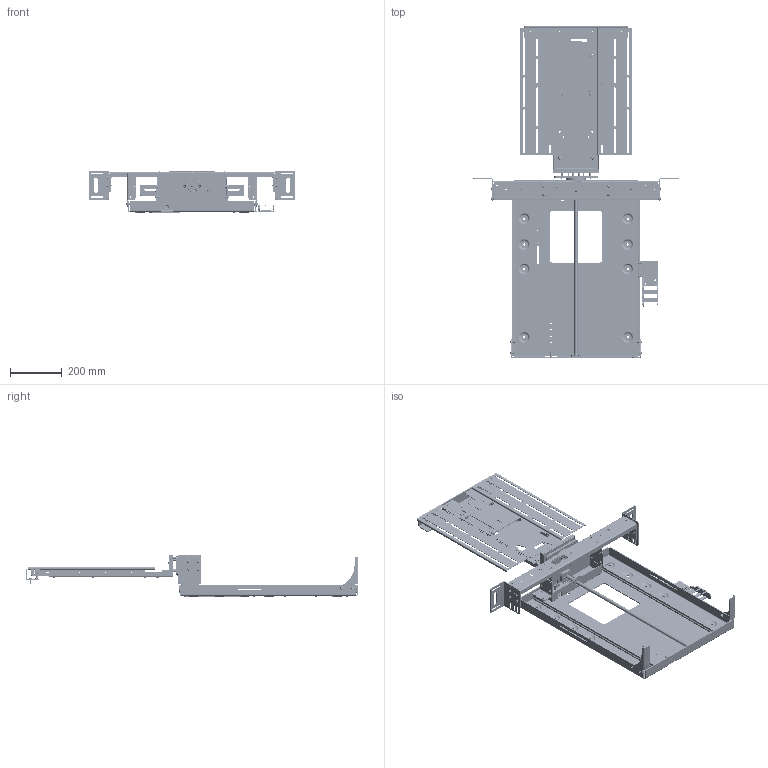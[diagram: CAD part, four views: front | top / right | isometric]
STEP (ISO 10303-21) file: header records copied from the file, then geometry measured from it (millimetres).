
FILE_DESCRIPTION (( 'STEP AP203' ), '1' );
FILE_NAME ('LSM-BE 2 - 3D CAD ISSUE03 OUT.STEP', '2025-05-27T09:05:12', ( '' ), ( '' ), 'SwSTEP 2.0', 'SolidWorks 2023', '' );
FILE_SCHEMA (( 'CONFIG_CONTROL_DESIGN' ));
Length unit declared in the file: millimetre
Products named in the file (75): LSM V4-245 TOP MOTOR BOSS; ISO 7380 - M5 x 12 - 12N_ISO 7380 - M5 x 12 - 12N; PEM FH-M4-12 X--N_PEM FH-M4-12 X--N; ISO 7380 - M6 x 16 - 16CBZP_ISO 7380 - M6 x 16 - 16CBZP; LSM21-448-MS SWITCH HOUSING ; KH-204 CAM BOSS; ISO - 4034 - M6 - N_ISO - 4034 - M6 - N; ISO 10642 - M6 x 12 --- 12N_ISO 10642 - M6 x 12 --- 12N; LSM21-004-BP UPRIGHT FOOT; ISO 10642 - M5 x 8 --- 8N_ISO 10642 - M5 x 8 --- 8N; ISO 7045 - M6 x 20 - Z - 20CBZP_ISO 7045 - M6 x 20 - Z - 20CBZP; Hexagon Flange Nut ISO - 4161 - M6 - N_Hexagon Flange Nut ISO - 4161 - M6 - N; KH-003 CAM LEVER; ISO 7380 - M6 x 10 --- 10N_ISO 7380 - M6 x 10 --- 10N; LSM V4-002 FOOT LEFT; ISO 7380 - M5 x 12 --- 12N_ISO 7380 - M5 x 12 --- 12N; ISO 10642 - M6 x 30 - 30C_ISO 10642 - M6 x 30 - 30C; Washer ISO 7089 - 4_Washer ISO 7089 - 4; LSM V4-007 BLOCK BRACKET MIRROR; ISO 7380 - M4 x 8 - 8N_ISO 7380 - M4 x 8 - 8N; ISO 7380 - M5 x 10 --- 10N_ISO 7380 - M5 x 10 --- 10N; ISO 4762 M5 x 50 - 22N_ISO 4762 M5 x 50 - 22N; ISO 4017 - M6 x 16-N_ISO 4017 - M6 x 16-N; LSM21-410-BP BEAM FRONT; ISO 10642 - M4 x 12 - 12C_ISO 10642 - M4 x 12 - 12C; LSM V4-251 LEAD SCREW BOTTOM BUSH; M6 Hex Post_20; ISO - 4032 - M6 - D - NBZP_ISO - 4032 - M6 - D - NBZP; M4X20mm HEX SPACER; ISO 7380 - M4 x 8 - 8CBZP_ISO 7380 - M4 x 8 - 8CBZP; 0033-014 60mm TRACK END M_Z14.4.1PZ; ISO - 4034 - M5 - N_ISO - 4034 - M5 - N; ISO 7040-M6-NBZP_ISO 7040-M6-NBZP; LSM21-404-BP LIFT MOUNT_480 ; 0033-013 60mm TRACK LINK_Z14.4.028.0; ISO 7380 - M6 x 12 --- 12N_ISO 7380 - M6 x 12 --- 12N; LSM V4-252 LEAD SCREW TOP BUSH; LSM21-415-BP BEAM_Default (LATEST VERSION); ISO 7380 - M4 x 10 - 10N_ISO 7380 - M4 x 10 - 10N; LSM V4-010 TOP SWITCH STOP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
Assembly tree (199 placements, depth 2):
  LSM-BE 2 - 3D CAD ISSUE03 OUT
    0033-014 60mm TRACK END M_Z14.4.1PZ
    M6 Hex Post_20
    0033-013 60mm TRACK LINK_Z14.4.028.0  x2
    M4X20mm HEX SPACER  x2
    LSM V4-401 BACK PLATE PUNCH_H694
    LSM21-403-BP SWIVEL COVER_FOLDED
    LSM21-404-BP LIFT MOUNT_480 
    LSM21-406-BP BE TOP BRACKET
    LSM21-407-BP UPRIGHT
    LSM21-408-BP UPRIGHT MIRROR
    LSM21-409-BP MOUNT DISC PLATE
    LSM21-410-BP BEAM FRONT
    LSM21-415-BP BEAM_Default (LATEST VERSION)
    LSM21-448-MS SWITCH HOUSING 
    LSM V4-002 FOOT LEFT
    LSM21-004-BP UPRIGHT FOOT
    LSM21-005-BP LOWER PLATE_FOLDED
    LSM V4-006 BLOCK BRACKET
    LSM V4-007 BLOCK BRACKET MIRROR
    LSM V4-010 TOP SWITCH STOP
    LSM Igus Bracket_V2
    LSM V4-057 BLANK SWITCH CARRIER  x2
    LSM21-201-MS COVER BOSS_DEFAULT  x2
    LSM V4-202 LINEAR GUIDE_H694  x2
    LSM V4-211 LEAD SCREW_H694
    LSM V4-220 H-19 KH MOUNT DISC
    LSM V4-245 TOP MOTOR BOSS
    LSM V4-251 LEAD SCREW BOTTOM BUSH
    LSM V4-003 FOOT RIGHT
    LSM V4-252 LEAD SCREW TOP BUSH
    KH-001 MOUNT PLATE_V400
    KH-002 MOUNT LOCK PLATE_Cam
    KH-003 CAM LEVER
    KH-204 CAM BOSS
    KH-205 BOSS SPACER_15MM  x4
    KH-206 SCREEN MOUNT BOSS  x4
    Hexagon Flange Nut ISO - 4161 - M6 - N_Hexagon Flange Nut ISO - 4161 - M6 - N  x4
    ISO 10642 - M5 x 8 --- 8N_ISO 10642 - M5 x 8 --- 8N  x2
    ISO 4762 M5 x 8 --- 8N_ISO 4762 M5 x 8 --- 8N  x2
    ISO 7380 - M5 x 10 --- 10N_ISO 7380 - M5 x 10 --- 10N  x2
    ISO 7380 - M6 x 10 --- 10N_ISO 7380 - M6 x 10 --- 10N  x12
    ISO 4017 - M6 x 16-N_ISO 4017 - M6 x 16-N
    ISO 10642 - M6 x 12 --- 12N_ISO 10642 - M6 x 12 --- 12N
    Hexagon Nut ISO - 4033 - M6 - D - N_Hexagon Nut ISO - 4033 - M6 - D - N
    ISO 7380 - M6 x 12 --- 12N_ISO 7380 - M6 x 12 --- 12N  x11
    ISO 7380 - M5 x 12 --- 12N_ISO 7380 - M5 x 12 --- 12N  x8
    ISO 4762 M5 x 50 - 22N_ISO 4762 M5 x 50 - 22N  x2
    ISO 10642 - M4 x 12 - 12C_ISO 10642 - M4 x 12 - 12C  x3
    ISO 7380 - M5 x 12 - 12N_ISO 7380 - M5 x 12 - 12N  x3
    Washer ISO 7089 - 5_Washer ISO 7089 - 5  x2
    ISO - 4032 - M5 - D - N_ISO - 4032 - M5 - D - N  x2
    ISO 7380 - M6 x 16 - 16N_ISO 7380 - M6 x 16 - 16N  x4
    Washer ISO 7089 - 6_Washer ISO 7089 - 6  x12
    ISO - 4034 - M6 - N_ISO - 4034 - M6 - N  x4
    ISO - 4161 - M6 - N_ISO - 4161 - M6 - N  x4
    ISO 7380 - M6 x 20 - 20N_ISO 7380 - M6 x 20 - 20N  x4
    ISO 10642 - M6 x 30 - 30C_ISO 10642 - M6 x 30 - 30C  x2
    ISO - 4032 - M4 - D - N_ISO - 4032 - M4 - D - N  x2
    Washer ISO 7089 - 4_Washer ISO 7089 - 4  x2
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Bounding box: 795 x 1283 x 166 mm (x, y, z)
Volume: 4206960.1 mm3; surface area: 2527016.8 mm2
Topology: 199 solids, 199 shells, 4999 faces, 11838 edges, 7407 vertices
Faces by surface type: plane 2765, cylinder 1266, cone 650, torus 182, bspline 74, sphere 62
Full cylindrical faces by diameter (mm): 3 x8, 3.3 x6, 3.5 x2, 4 x15, 4.2 x10, 4.3 x4, 4.5 x4, 4.65 x10, 5 x98, 5.2 x2, 5.3 x4, 5.415 x2, 5.5 x6, 5.55 x44, 6 x90, 6.2 x65, 6.3 x8, 6.4 x33, 6.5 x10, 6.6 x12, 6.8 x6, 7 x2, 7.1 x3, 7.143 x2, 7.2 x1, 7.53 x3, 7.6 x5, 8.5 x4, 9 x2, 9.1 x10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
Entity records: 98096 total; most frequent: CARTESIAN_POINT 19669, DIRECTION 14285, ORIENTED_EDGE 12656, EDGE_CURVE 6328, AXIS2_PLACEMENT_3D 5365, VERTEX_POINT 4325, EDGE_LOOP 4203, LINE 3555
